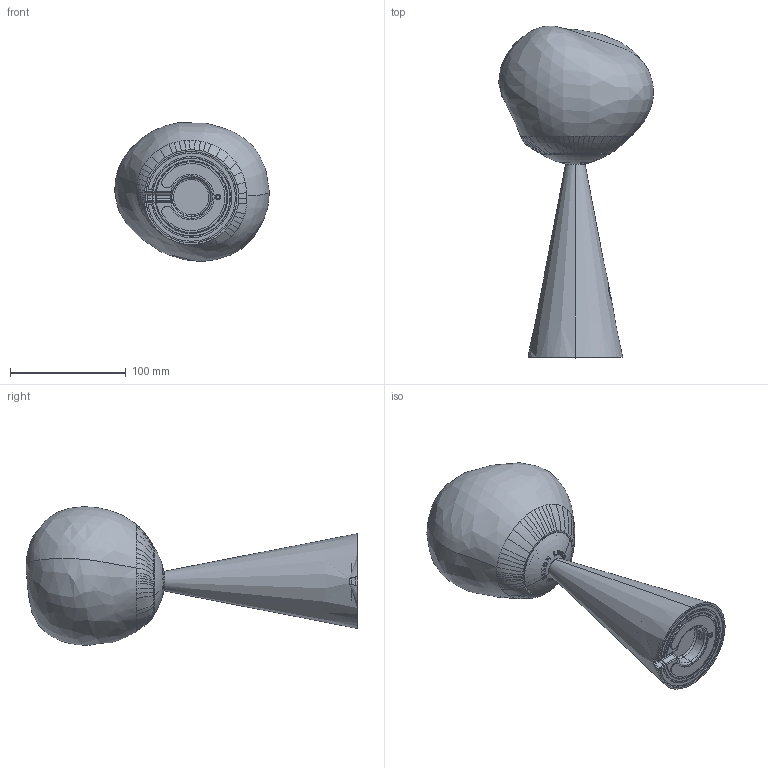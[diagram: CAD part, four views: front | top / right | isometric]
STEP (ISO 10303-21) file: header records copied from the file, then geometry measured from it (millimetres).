
FILE_DESCRIPTION (( 'STEP AP203' ), '1' );
FILE_NAME ('Melt Protable LED.STEP', '2023-06-22T14:28:45', ( '' ), ( '' ), 'SwSTEP 2.0', 'SolidWorks 2022', '' );
FILE_SCHEMA (( 'CONFIG_CONTROL_DESIGN' ));
Length unit declared in the file: millimetre
Products named in the file (1): Melt Protable LED
Bounding box: 133.89 x 286.85 x 119.77 mm (x, y, z)
Volume: 250242.6 mm3; surface area: 244170.5 mm2
Topology: 12 solids, 12 shells, 1036 faces, 3012 edges, 2053 vertices
Faces by surface type: plane 300, bspline 266, cylinder 264, cone 111, torus 91, sphere 4
Entity records: 93881 total; most frequent: CARTESIAN_POINT 69200, ORIENTED_EDGE 6020, DIRECTION 3958, EDGE_CURVE 3010, VERTEX_POINT 2053, AXIS2_PLACEMENT_3D 1592, B_SPLINE_CURVE_WITH_KNOTS 1309, EDGE_LOOP 1141
